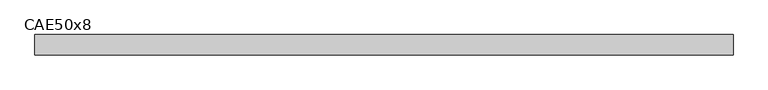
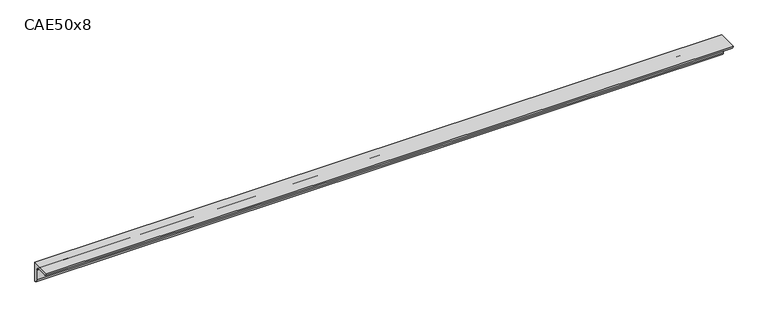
"""IFC4 building model written with IfcOpenShell, lengths in millimetres: beam geometry, L-Cornières : CAE50x8."""

from ifc_helpers import new_model, si_unit, point, frame, frame_2d, origin, place, context, project, spatial, polyline, circle_curve, trimmed, segment, composite_curve, outline, extrude, source, transform, mapped, element, save


def cae50x8_05079c66(model_context):
    return source(origin(), model_context, "Body", "SweptSolid", [
        extrude(outline(composite_curve([segment(polyline([(15.2, 15.2), (15.2, -34.8)]), True, "CONTINUOUS"), segment(trimmed(circle_curve(frame_2d((15.2, -26.8)), 8.0), [point((15.2, -34.8))], [point((7.2, -26.8))], False, "CARTESIAN"), True, "CONTINUOUS"), segment(polyline([(7.2, -26.8), (7.2, -0.8)]), True, "CONTINUOUS"), segment(trimmed(circle_curve(frame_2d((-0.8, -0.8)), 8.0), [point((7.2, -0.8))], [point((-0.8, 7.2))], True, "CARTESIAN"), True, "CONTINUOUS"), segment(polyline([(-0.8, 7.2), (-26.8, 7.2)]), True, "CONTINUOUS"), segment(trimmed(circle_curve(frame_2d((-26.8, 15.2)), 8.0), [point((-26.8, 7.2))], [point((-34.8, 15.2))], False, "CARTESIAN"), True, "CONTINUOUS"), segment(polyline([(-34.8, 15.2), (15.2, 15.2)]), True, "CONTINUOUS")], self_intersect=False)), frame((-862.0, 0.0, 0.0), z_axis=(1.0, 0.0, 0.0), x_axis=(0.0, 1.0, 0.0)), (0.0, 0.0, 1.0), 1721.0),
    ])


if __name__ == "__main__":
    model = new_model("IFC4")
    model_context = context("Model", 3, world=origin())
    ifc_project = project(units=[si_unit("LENGTHUNIT", "METRE", prefix="MILLI")], contexts=[model_context])
    site = spatial("IfcSite", under=ifc_project)
    building = spatial("IfcBuilding", under=site)
    placement = place(None, origin())
    cae50x8_shape = cae50x8_05079c66(model_context)
    element("IfcBeam", 1, ObjectType="L-Cornières : CAE50x8", at=placement, inside=building, context=model_context, shape_type="MappedRepresentation", body=[
        mapped(cae50x8_shape, transform((0.0, 0.0, 0.0), x_axis=(1.0, 0.0, 0.0), y_axis=(0.0, 1.0, 0.0), z_axis=(0.0, 0.0, 1.0))),
    ])
    save(model, "model.ifc")
